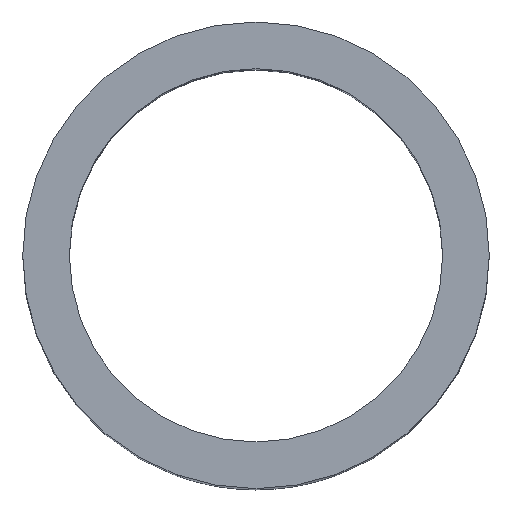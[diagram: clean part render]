
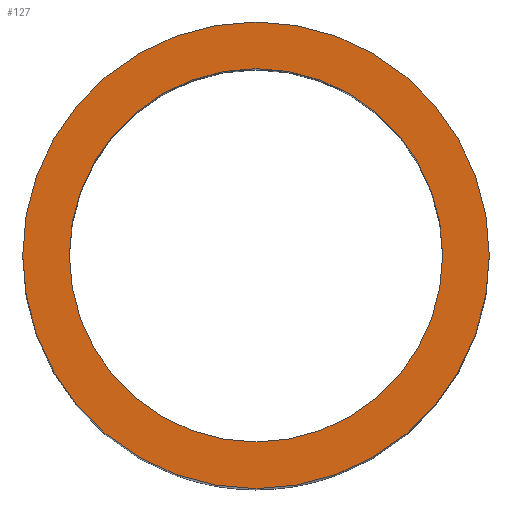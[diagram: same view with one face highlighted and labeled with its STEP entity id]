
A CAD part, top view. The second image highlights one B-rep face of the part: STEP entity #127.
In plain terms, the highlighted planar face has unit normal (0, 0, 1).
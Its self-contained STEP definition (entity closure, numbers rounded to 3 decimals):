
#3 = CARTESIAN_POINT ( 'NONE',  ( 12., 0., 50. ) ) ;
#18 = DIRECTION ( 'NONE',  ( 1., 0., 0. ) ) ;
#42 = EDGE_CURVE ( 'NONE', #309, #506, #271, .T. ) ;
#43 = VERTEX_POINT ( 'NONE', #342 ) ;
#44 = VERTEX_POINT ( 'NONE', #3 ) ;
#47 = CARTESIAN_POINT ( 'NONE',  ( -15., 0., 50. ) ) ;
#101 = PLANE ( 'NONE',  #195 ) ;
#105 = CARTESIAN_POINT ( 'NONE',  ( 0., 0., 50. ) ) ;
#116 = CARTESIAN_POINT ( 'NONE',  ( 15., 0., 50. ) ) ;
#127 = ADVANCED_FACE ( 'NONE', ( #637, #369 ), #101, .T. ) ;
#138 = DIRECTION ( 'NONE',  ( 1., 0., 0. ) ) ;
#152 = DIRECTION ( 'NONE',  ( 1., 0., 0. ) ) ;
#172 = ORIENTED_EDGE ( 'NONE', *, *, #444, .F. ) ;
#190 = DIRECTION ( 'NONE',  ( 1., 0., 0. ) ) ;
#192 = AXIS2_PLACEMENT_3D ( 'NONE', #416, #312, #18 ) ;
#193 = ORIENTED_EDGE ( 'NONE', *, *, #365, .F. ) ;
#195 = AXIS2_PLACEMENT_3D ( 'NONE', #244, #449, #152 ) ;
#203 = EDGE_LOOP ( 'NONE', ( #218, #439 ) ) ;
#218 = ORIENTED_EDGE ( 'NONE', *, *, #532, .T. ) ;
#224 = CARTESIAN_POINT ( 'NONE',  ( 0., 0., 50. ) ) ;
#239 = DIRECTION ( 'NONE',  ( 0., 0., 1. ) ) ;
#244 = CARTESIAN_POINT ( 'NONE',  ( 0., 0., 50. ) ) ;
#251 = CIRCLE ( 'NONE', #330, 12. ) ;
#271 = CIRCLE ( 'NONE', #579, 15. ) ;
#283 = DIRECTION ( 'NONE',  ( 0., 0., 1. ) ) ;
#309 = VERTEX_POINT ( 'NONE', #116 ) ;
#312 = DIRECTION ( 'NONE',  ( 0., 0., 1. ) ) ;
#323 = CIRCLE ( 'NONE', #446, 12. ) ;
#330 = AXIS2_PLACEMENT_3D ( 'NONE', #224, #283, #138 ) ;
#340 = CIRCLE ( 'NONE', #192, 15. ) ;
#342 = CARTESIAN_POINT ( 'NONE',  ( -12., 0., 50. ) ) ;
#365 = EDGE_CURVE ( 'NONE', #43, #44, #323, .T. ) ;
#369 = FACE_OUTER_BOUND ( 'NONE', #203, .T. ) ;
#392 = DIRECTION ( 'NONE',  ( 0., 0., 1. ) ) ;
#416 = CARTESIAN_POINT ( 'NONE',  ( 0., 0., 50. ) ) ;
#439 = ORIENTED_EDGE ( 'NONE', *, *, #42, .T. ) ;
#444 = EDGE_CURVE ( 'NONE', #44, #43, #251, .T. ) ;
#446 = AXIS2_PLACEMENT_3D ( 'NONE', #105, #239, #598 ) ;
#449 = DIRECTION ( 'NONE',  ( 0., 0., 1. ) ) ;
#506 = VERTEX_POINT ( 'NONE', #47 ) ;
#532 = EDGE_CURVE ( 'NONE', #506, #309, #340, .T. ) ;
#552 = CARTESIAN_POINT ( 'NONE',  ( 0., 0., 50. ) ) ;
#579 = AXIS2_PLACEMENT_3D ( 'NONE', #552, #392, #190 ) ;
#590 = EDGE_LOOP ( 'NONE', ( #172, #193 ) ) ;
#598 = DIRECTION ( 'NONE',  ( 1., 0., 0. ) ) ;
#637 = FACE_BOUND ( 'NONE', #590, .T. ) ;
